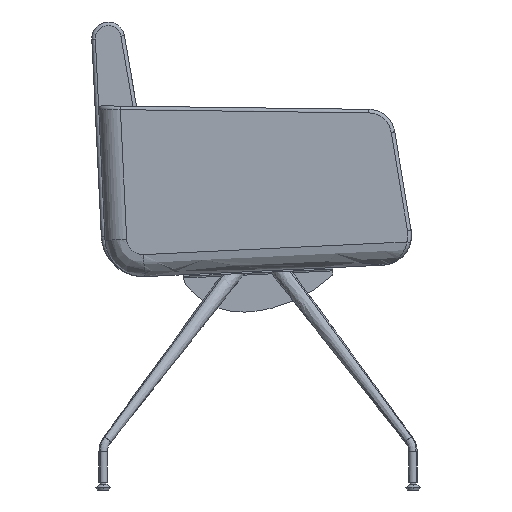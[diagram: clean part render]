
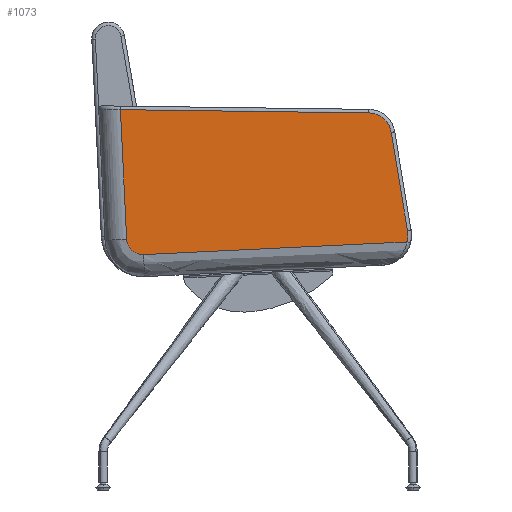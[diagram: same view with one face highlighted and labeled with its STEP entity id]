
A CAD part, left-side view. The second image highlights one B-rep face of the part: STEP entity #1073.
In plain terms, the highlighted planar face has unit normal (-1, 0.019, 0).
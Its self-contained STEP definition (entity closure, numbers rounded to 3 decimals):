
#440=(
BOUNDED_CURVE()
B_SPLINE_CURVE(3,(#8627,#8628,#8629,#8630,#8631,#8632),.UNSPECIFIED.,.F.,
 .F.)
B_SPLINE_CURVE_WITH_KNOTS((4,1,1,4),(0.574,16.302,
26.915,42.99),.UNSPECIFIED.)
CURVE()
GEOMETRIC_REPRESENTATION_ITEM()
RATIONAL_B_SPLINE_CURVE((1.,1.,1.,1.,1.,
1.))
REPRESENTATION_ITEM('')
);
#447=(
BOUNDED_CURVE()
B_SPLINE_CURVE(1,(#8650,#8651),.UNSPECIFIED.,.F.,.F.)
B_SPLINE_CURVE_WITH_KNOTS((2,2),(8.235,225.966),
 .UNSPECIFIED.)
CURVE()
GEOMETRIC_REPRESENTATION_ITEM()
RATIONAL_B_SPLINE_CURVE((1.,1.))
REPRESENTATION_ITEM('')
);
#450=(
BOUNDED_CURVE()
B_SPLINE_CURVE(3,(#8662,#8663,#8664,#8665,#8666),.UNSPECIFIED.,.F.,.F.)
B_SPLINE_CURVE_WITH_KNOTS((4,1,4),(0.019,27.333,54.402),
 .UNSPECIFIED.)
CURVE()
GEOMETRIC_REPRESENTATION_ITEM()
RATIONAL_B_SPLINE_CURVE((1.,1.,1.,1.,1.))
REPRESENTATION_ITEM('')
);
#454=(
BOUNDED_CURVE()
B_SPLINE_CURVE(1,(#8675,#8676),.UNSPECIFIED.,.F.,.F.)
B_SPLINE_CURVE_WITH_KNOTS((2,2),(0.117,416.598),
 .UNSPECIFIED.)
CURVE()
GEOMETRIC_REPRESENTATION_ITEM()
RATIONAL_B_SPLINE_CURVE((1.,1.))
REPRESENTATION_ITEM('')
);
#459=(
BOUNDED_CURVE()
B_SPLINE_CURVE(1,(#8696,#8697),.UNSPECIFIED.,.F.,.F.)
B_SPLINE_CURVE_WITH_KNOTS((2,2),(0.019,167.948),
 .UNSPECIFIED.)
CURVE()
GEOMETRIC_REPRESENTATION_ITEM()
RATIONAL_B_SPLINE_CURVE((1.,1.))
REPRESENTATION_ITEM('')
);
#462=(
BOUNDED_CURVE()
B_SPLINE_CURVE(3,(#8705,#8706,#8707,#8708),.UNSPECIFIED.,.F.,.F.)
B_SPLINE_CURVE_WITH_KNOTS((4,4),(-1.65,16.592),
 .UNSPECIFIED.)
CURVE()
GEOMETRIC_REPRESENTATION_ITEM()
RATIONAL_B_SPLINE_CURVE((1.,1.,1.,1.))
REPRESENTATION_ITEM('')
);
#1073=ADVANCED_FACE('',(#1354),#4022,.T.);
#1354=FACE_OUTER_BOUND('',#1637,.T.);
#1637=EDGE_LOOP('',(#2608,#2609,#2610,#2611,#2612,#2613,#2614));
#2608=ORIENTED_EDGE('',*,*,#3398,.T.);
#2609=ORIENTED_EDGE('',*,*,#3395,.T.);
#2610=ORIENTED_EDGE('',*,*,#3386,.T.);
#2611=ORIENTED_EDGE('',*,*,#3390,.T.);
#2612=ORIENTED_EDGE('',*,*,#3382,.T.);
#2613=ORIENTED_EDGE('',*,*,#3375,.F.);
#2614=ORIENTED_EDGE('',*,*,#3383,.F.);
#3375=EDGE_CURVE('',#3887,#3888,#440,.T.);
#3382=EDGE_CURVE('',#3897,#3888,#447,.T.);
#3383=EDGE_CURVE('',#3899,#3887,#3608,.T.);
#3386=EDGE_CURVE('',#3902,#3901,#450,.T.);
#3390=EDGE_CURVE('',#3901,#3897,#454,.T.);
#3395=EDGE_CURVE('',#3900,#3902,#459,.T.);
#3398=EDGE_CURVE('',#3899,#3900,#462,.T.);
#3608=B_SPLINE_CURVE_WITH_KNOTS('',1,(#8652,#8653),.UNSPECIFIED.,.F.,.F.,
(2,2),(14.204,456.936),.UNSPECIFIED.);
#3887=VERTEX_POINT('',#8591);
#3888=VERTEX_POINT('',#8592);
#3897=VERTEX_POINT('',#8601);
#3899=VERTEX_POINT('',#8603);
#3900=VERTEX_POINT('',#8604);
#3901=VERTEX_POINT('',#8605);
#3902=VERTEX_POINT('',#8606);
#4022=PLANE('',#4146);
#4146=AXIS2_PLACEMENT_3D('',#8381,#4187,$);
#4187=DIRECTION('',(-1.,0.019,0.));
#8381=CARTESIAN_POINT('',(-806.892,258.768,351.764));
#8591=CARTESIAN_POINT('',(-808.189,192.279,394.941));
#8592=CARTESIAN_POINT('',(-807.638,220.544,420.614));
#8601=CARTESIAN_POINT('',(-807.434,231.,638.094));
#8603=CARTESIAN_POINT('',(-816.808,-249.859,416.198));
#8604=CARTESIAN_POINT('',(-816.824,-250.654,434.293));
#8605=CARTESIAN_POINT('',(-815.551,-185.366,632.636));
#8606=CARTESIAN_POINT('',(-816.291,-223.335,599.984));
#8627=CARTESIAN_POINT('',(-808.189,192.279,394.941));
#8628=CARTESIAN_POINT('',(-808.086,197.519,394.673));
#8629=CARTESIAN_POINT('',(-807.914,206.388,396.904));
#8630=CARTESIAN_POINT('',(-807.704,217.128,406.529));
#8631=CARTESIAN_POINT('',(-807.642,220.304,415.256));
#8632=CARTESIAN_POINT('',(-807.638,220.544,420.614));
#8650=CARTESIAN_POINT('',(-807.434,231.,638.094));
#8651=CARTESIAN_POINT('',(-807.638,220.544,420.614));
#8652=CARTESIAN_POINT('',(-816.808,-249.859,416.198));
#8653=CARTESIAN_POINT('',(-808.189,192.279,394.941));
#8662=CARTESIAN_POINT('',(-816.291,-223.335,599.984));
#8663=CARTESIAN_POINT('',(-816.263,-221.897,608.981));
#8664=CARTESIAN_POINT('',(-816.077,-212.368,625.713));
#8665=CARTESIAN_POINT('',(-815.727,-194.393,632.56));
#8666=CARTESIAN_POINT('',(-815.551,-185.366,632.636));
#8675=CARTESIAN_POINT('',(-815.551,-185.366,632.636));
#8676=CARTESIAN_POINT('',(-807.434,231.,638.094));
#8696=CARTESIAN_POINT('',(-816.824,-250.654,434.293));
#8697=CARTESIAN_POINT('',(-816.291,-223.335,599.984));
#8705=CARTESIAN_POINT('',(-816.808,-249.859,416.198));
#8706=CARTESIAN_POINT('',(-816.838,-251.368,422.088));
#8707=CARTESIAN_POINT('',(-816.843,-251.652,428.294));
#8708=CARTESIAN_POINT('',(-816.824,-250.654,434.293));
